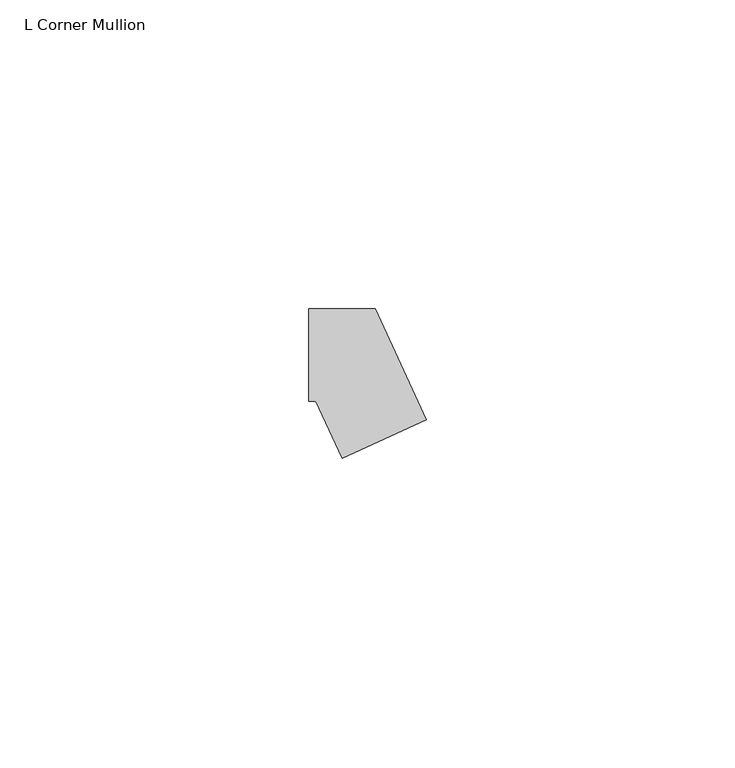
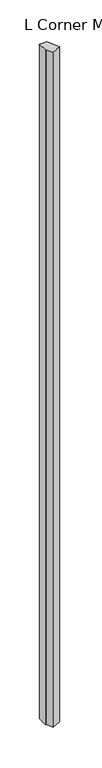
"""IFC4 building model written with IfcOpenShell, lengths in millimetres: member geometry, L Corner Mullion : ARQ_HERR_15X6mm."""

from ifc_helpers import new_model, si_unit, frame, origin, place, context, project, spatial, polyline, outline, extrude, source, transform, mapped, element, save


def l_corner_mullion_e48bd2cc(model_context):
    return source(origin(), model_context, "Body", "SweptSolid", [
        extrude(outline(polyline([(-0.5775282, -16.7605627), (-4.8156946, -7.5), (-6.0, -7.5), (-6.0, 7.5), (4.8156946, 7.5), (13.0619332, -10.5183601), (-0.5775282, -16.7605627)])), frame((0.0, 0.0, -1038.0), z_axis=(0.0, 0.0, 1.0), x_axis=(1.0, 0.0, 0.0)), (0.0, 0.0, 1.0), 1038.0),
    ])


if __name__ == "__main__":
    model = new_model("IFC4")
    model_context = context("Model", 3, world=origin())
    ifc_project = project(units=[si_unit("LENGTHUNIT", "METRE", prefix="MILLI")], contexts=[model_context])
    site = spatial("IfcSite", under=ifc_project)
    building = spatial("IfcBuilding", under=site)
    placement = place(None, origin())
    l_corner_mullion_shape = l_corner_mullion_e48bd2cc(model_context)
    element("IfcMember", 1, ObjectType="L Corner Mullion : ARQ_HERR_15X6mm", at=placement, inside=building, context=model_context, shape_type="MappedRepresentation", body=[
        mapped(l_corner_mullion_shape, transform((0.0, 0.0, 0.0), x_axis=(1.0, 0.0, 0.0), y_axis=(0.0, 1.0, 0.0), z_axis=(0.0, 0.0, 1.0))),
    ])
    save(model, "model.ifc")
